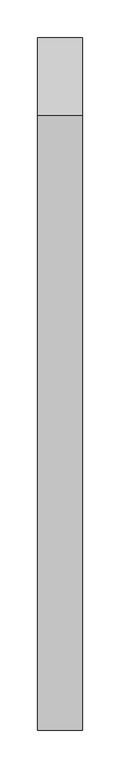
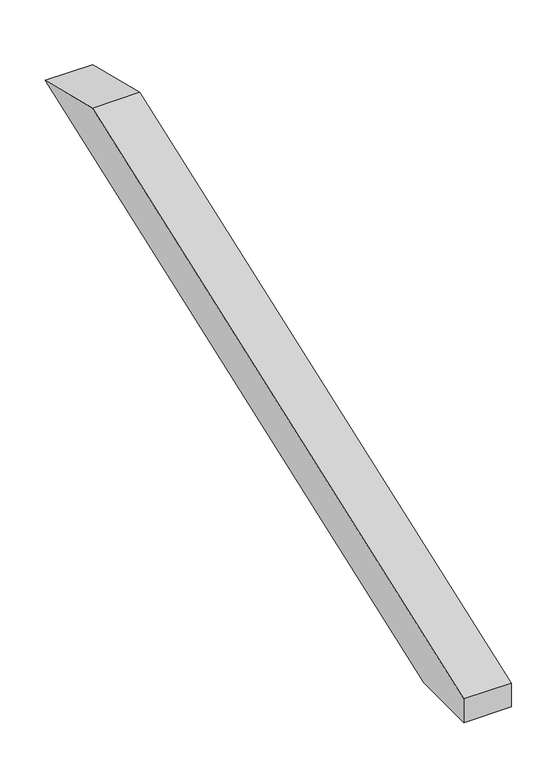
"""IFC4 building model written with IfcOpenShell, lengths in millimetres: proxy geometry, Modelos genéricos 133 : Modelos genéricos 14."""

from ifc_helpers import new_model, si_unit, frame, origin, place, context, project, spatial, polyline, outline, extrude, source, transform, mapped, element, save


def generic_models_750aa1d1(model_context):
    return source(origin(), model_context, "Body", "SweptSolid", [
        extrude(outline(polyline([(4380.24101, 3463.5158927), (3546.3379485, 3160.0), (3458.6238165, 3160.0), (3458.6238165, 3191.9253332), (4276.1307053, 3489.473507), (4380.24101, 3463.5158927)])), frame((9223.4472467, 0.0, 0.0), z_axis=(1.0, 0.0, 0.0), x_axis=(0.0, 1.0, 0.0)), (0.0, 0.0, 1.0), 60.0),
    ])


if __name__ == "__main__":
    model = new_model("IFC4")
    model_context = context("Model", 3, world=origin())
    ifc_project = project(units=[si_unit("LENGTHUNIT", "METRE", prefix="MILLI")], contexts=[model_context])
    site = spatial("IfcSite", under=ifc_project)
    building = spatial("IfcBuilding", under=site)
    placement = place(None, origin())
    generic_models_shape = generic_models_750aa1d1(model_context)
    element("IfcBuildingElementProxy", 1, Name="Modelos genéricos 133 : Modelos genéricos 14", ObjectType="Modelos genéricos 133 : Modelos genéricos 14", at=placement, inside=building, context=model_context, shape_type="MappedRepresentation", body=[
        mapped(generic_models_shape, transform((0.0, 0.0, 0.0), x_axis=(1.0, 0.0, 0.0), y_axis=(0.0, 1.0, 0.0), z_axis=(0.0, 0.0, 1.0))),
    ])
    save(model, "model.ifc")
